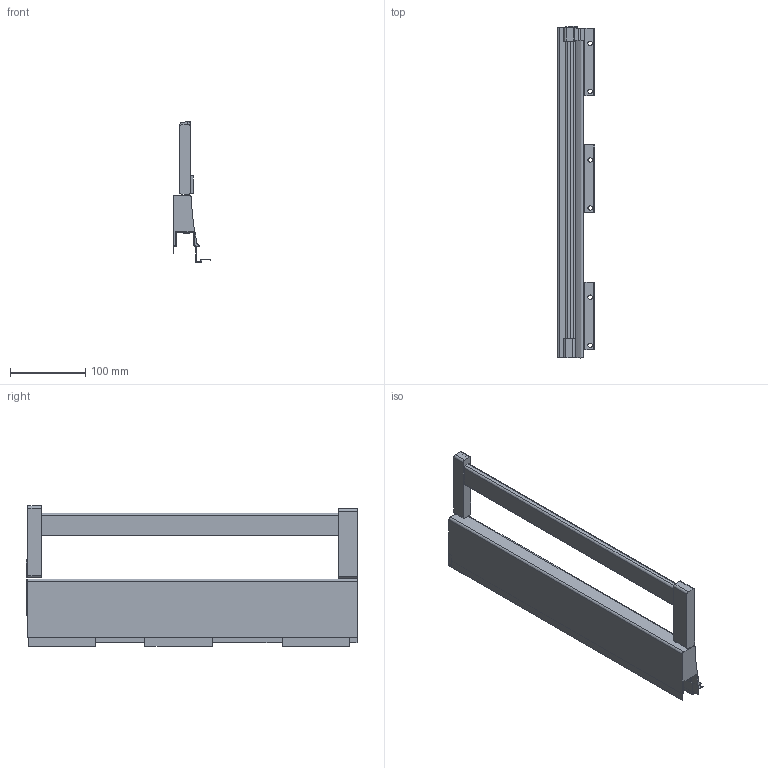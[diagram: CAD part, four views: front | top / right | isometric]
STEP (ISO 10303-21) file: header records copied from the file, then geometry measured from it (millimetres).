
FILE_DESCRIPTION (( 'STEP AP214' ), '1' );
FILE_NAME ('_XP Agantis Dekorseite H95 NL450 LI Rechteckreling.step', '2010-07-08T06:08:24', ( 'grass' ), ( '' ), 'SwSTEP 2.0', 'SolidWorks 2010', '' );
FILE_SCHEMA (( 'AUTOMOTIVE_DESIGN' ));
Length unit declared in the file: millimetre
Products named in the file (1): _XP Agantis Dekorseite H95 NL450 LI Rechteckreling
Bounding box: 50.01 x 442.45 x 187 mm (x, y, z)
Volume: 804558 mm3; surface area: 195442.2 mm2
Topology: 2 solids, 2 shells, 166 faces, 477 edges, 312 vertices
Faces by surface type: plane 127, cylinder 39
Entity records: 5455 total; most frequent: CARTESIAN_POINT 956, ORIENTED_EDGE 954, DIRECTION 890, EDGE_CURVE 477, VECTOR 398, LINE 398, VERTEX_POINT 312, AXIS2_PLACEMENT_3D 246
